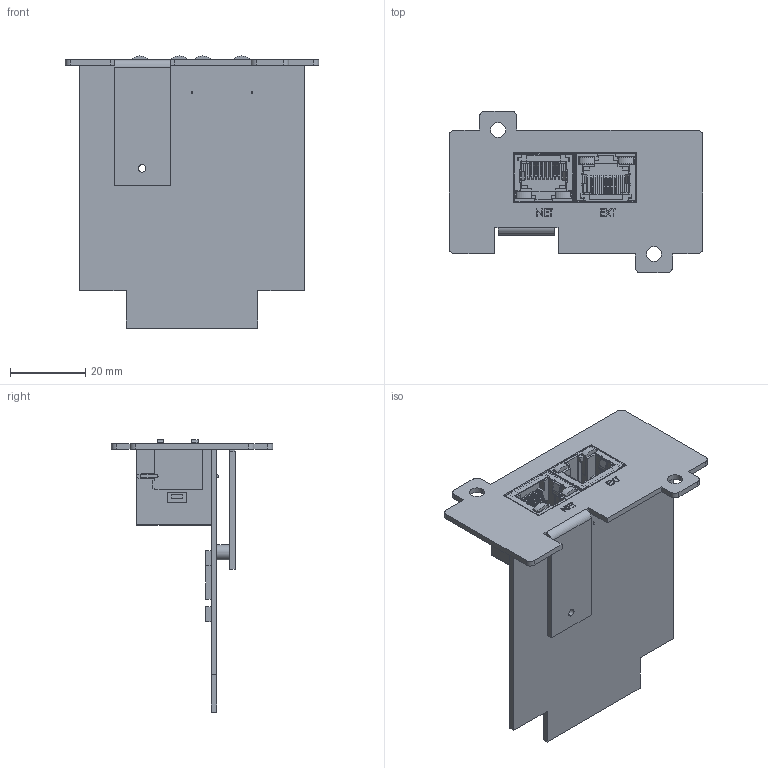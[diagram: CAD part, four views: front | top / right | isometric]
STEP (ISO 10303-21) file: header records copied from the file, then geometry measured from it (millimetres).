
FILE_DESCRIPTION (( 'STEP AP203' ), '1' );
FILE_NAME ('SNMPSM.STEP', '2025-04-28T12:03:09', ( '' ), ( '' ), 'SwSTEP 2.0', 'SolidWorks 2022', '' );
FILE_SCHEMA (( 'CONFIG_CONTROL_DESIGN' ));
Length unit declared in the file: millimetre
Products named in the file (1): SNMPSM
Bounding box: 67.5 x 43 x 72.47 mm (x, y, z)
Volume: 13395.4 mm3; surface area: 26263.4 mm2
Topology: 4 solids, 4 shells, 1489 faces, 4550 edges, 3000 vertices
Faces by surface type: plane 1313, cylinder 176
Entity records: 50877 total; most frequent: CARTESIAN_POINT 9540, ORIENTED_EDGE 9100, DIRECTION 7878, EDGE_CURVE 4550, LINE 4142, VECTOR 4142, VERTEX_POINT 3000, AXIS2_PLACEMENT_3D 1868
